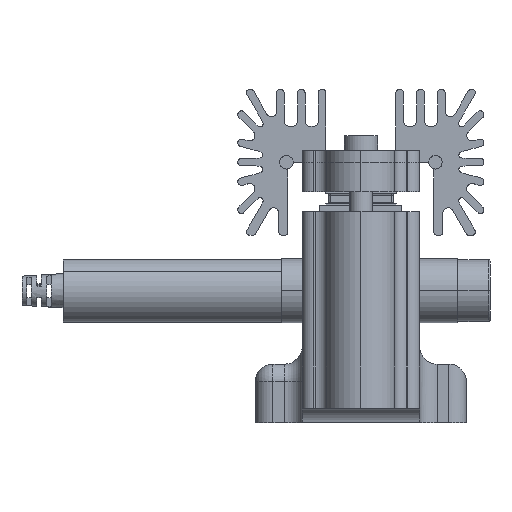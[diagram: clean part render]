
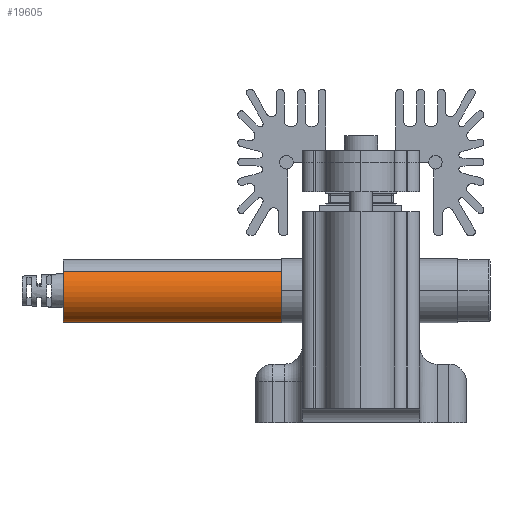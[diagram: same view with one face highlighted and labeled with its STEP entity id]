
A CAD part, left-side view. The second image highlights one B-rep face of the part: STEP entity #19605.
In plain terms, the highlighted cylindrical face has radius 5.4 mm (diameter 10.8 mm), a partial arc.
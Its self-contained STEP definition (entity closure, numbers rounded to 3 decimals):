
#440 = EDGE_CURVE ( 'NONE', #18131, #4437, #8986, .T. ) ;
#1710 = FACE_OUTER_BOUND ( 'NONE', #24654, .T. ) ;
#2289 = AXIS2_PLACEMENT_3D ( 'NONE', #17313, #7754, #15036 ) ;
#2567 = CARTESIAN_POINT ( 'NONE',  ( 4.228, -3.359, -37.25 ) ) ;
#3355 = DIRECTION ( 'NONE',  ( 0., 0., -1. ) ) ;
#4068 = CARTESIAN_POINT ( 'NONE',  ( -4.228, 3.359, -37.25 ) ) ;
#4437 = VERTEX_POINT ( 'NONE', #15353 ) ;
#6415 = CYLINDRICAL_SURFACE ( 'NONE', #28429, 5.4 ) ;
#7304 = EDGE_CURVE ( 'NONE', #18131, #22747, #27467, .T. ) ;
#7462 = CARTESIAN_POINT ( 'NONE',  ( 0., 0., -37.25 ) ) ;
#7744 = EDGE_CURVE ( 'NONE', #4437, #29203, #20039, .T. ) ;
#7754 = DIRECTION ( 'NONE',  ( 0., 0., -1. ) ) ;
#8007 = ORIENTED_EDGE ( 'NONE', *, *, #440, .F. ) ;
#8986 = CIRCLE ( 'NONE', #23548, 5.4 ) ;
#10057 = VECTOR ( 'NONE', #17306, 1000. ) ;
#10544 = CIRCLE ( 'NONE', #2289, 5.4 ) ;
#12623 = EDGE_CURVE ( 'NONE', #22747, #29203, #10544, .T. ) ;
#12625 = DIRECTION ( 'NONE',  ( -0.783, 0.622, 0. ) ) ;
#14149 = DIRECTION ( 'NONE',  ( 0.783, -0.622, 0. ) ) ;
#15036 = DIRECTION ( 'NONE',  ( -0.783, 0.622, 0. ) ) ;
#15353 = CARTESIAN_POINT ( 'NONE',  ( -4.228, 3.359, -37.25 ) ) ;
#16630 = ORIENTED_EDGE ( 'NONE', *, *, #12623, .T. ) ;
#17107 = CARTESIAN_POINT ( 'NONE',  ( 4.228, -3.359, 0. ) ) ;
#17306 = DIRECTION ( 'NONE',  ( 0., 0., 1. ) ) ;
#17313 = CARTESIAN_POINT ( 'NONE',  ( 0., 0., 0. ) ) ;
#18131 = VERTEX_POINT ( 'NONE', #27400 ) ;
#19605 = ADVANCED_FACE ( 'NONE', ( #1710 ), #6415, .T. ) ;
#20039 = LINE ( 'NONE', #4068, #10057 ) ;
#20254 = CARTESIAN_POINT ( 'NONE',  ( -4.228, 3.359, 0. ) ) ;
#22747 = VERTEX_POINT ( 'NONE', #17107 ) ;
#23386 = DIRECTION ( 'NONE',  ( 0., 0., 1. ) ) ;
#23548 = AXIS2_PLACEMENT_3D ( 'NONE', #26711, #3355, #12625 ) ;
#23722 = DIRECTION ( 'NONE',  ( 0., 0., 1. ) ) ;
#24178 = ORIENTED_EDGE ( 'NONE', *, *, #7744, .F. ) ;
#24316 = ORIENTED_EDGE ( 'NONE', *, *, #7304, .T. ) ;
#24654 = EDGE_LOOP ( 'NONE', ( #24178, #8007, #24316, #16630 ) ) ;
#25561 = VECTOR ( 'NONE', #23386, 1000. ) ;
#26711 = CARTESIAN_POINT ( 'NONE',  ( 0., 0., -37.25 ) ) ;
#27400 = CARTESIAN_POINT ( 'NONE',  ( 4.228, -3.359, -37.25 ) ) ;
#27467 = LINE ( 'NONE', #2567, #25561 ) ;
#28429 = AXIS2_PLACEMENT_3D ( 'NONE', #7462, #23722, #14149 ) ;
#29203 = VERTEX_POINT ( 'NONE', #20254 ) ;
